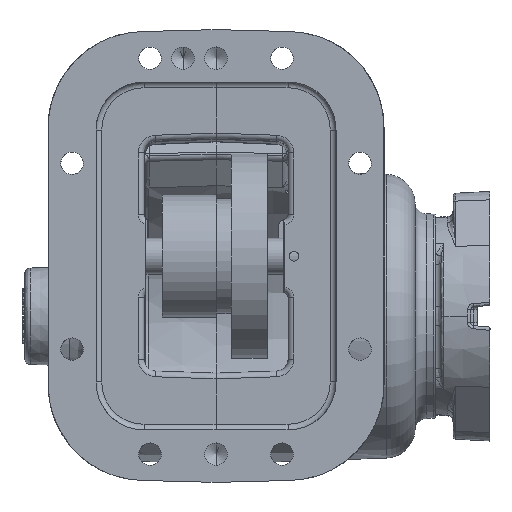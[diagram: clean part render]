
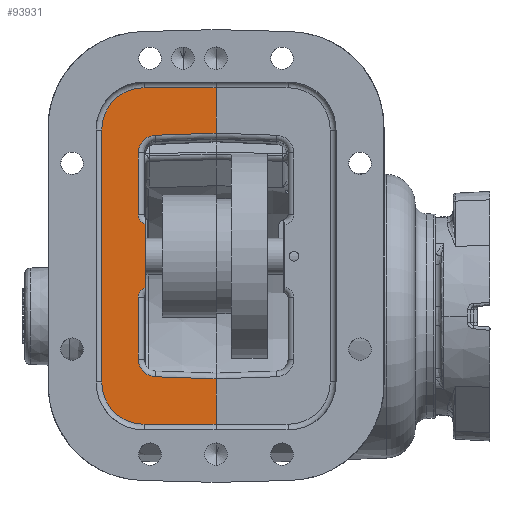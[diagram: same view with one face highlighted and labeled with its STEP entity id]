
A CAD part, front view. The second image highlights one B-rep face of the part: STEP entity #93931.
In plain terms, the highlighted planar face has unit normal (0, -1, 0).
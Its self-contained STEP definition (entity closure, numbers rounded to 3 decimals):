
#3724 = CARTESIAN_POINT ( 'NONE',  ( -99.29, -133.047, -95.578 ) ) ;
#3725 = PLANE ( 'NONE',  #58390 ) ;
#3756 = DIRECTION ( 'NONE',  ( 0., 1., 0. ) ) ;
#3757 = DIRECTION ( 'NONE',  ( 0., 0., -1. ) ) ;
#10368 = CARTESIAN_POINT ( 'NONE',  ( -10.39, -133.047, -43.129 ) ) ;
#10406 = CARTESIAN_POINT ( 'NONE',  ( -10.39, -133.047, -67.13 ) ) ;
#10518 = CARTESIAN_POINT ( 'NONE',  ( -10.39, -133.047, 110.924 ) ) ;
#10563 = CARTESIAN_POINT ( 'NONE',  ( -10.39, -133.047, 86.923 ) ) ;
#10722 = CARTESIAN_POINT ( 'NONE',  ( -48.49, -133.047, 110.924 ) ) ;
#10785 = CARTESIAN_POINT ( 'NONE',  ( -47.728, -133.047, 5.386 ) ) ;
#10789 = CARTESIAN_POINT ( 'NONE',  ( -42.468, -133.047, 85.803 ) ) ;
#10916 = CARTESIAN_POINT ( 'NONE',  ( -47.728, -133.047, 38.408 ) ) ;
#10951 = CARTESIAN_POINT ( 'NONE',  ( -51.538, -133.047, 44.059 ) ) ;
#10993 = CARTESIAN_POINT ( 'NONE',  ( -70.842, -133.047, -44.778 ) ) ;
#10997 = CARTESIAN_POINT ( 'NONE',  ( -51.538, -133.047, 76.41 ) ) ;
#11031 = CARTESIAN_POINT ( 'NONE',  ( -48.49, -133.047, -67.13 ) ) ;
#11062 = CARTESIAN_POINT ( 'NONE',  ( -42.468, -133.047, -42.009 ) ) ;
#11083 = CARTESIAN_POINT ( 'NONE',  ( -70.842, -133.047, 88.572 ) ) ;
#11112 = CARTESIAN_POINT ( 'NONE',  ( -51.538, -133.047, -0.265 ) ) ;
#23468 = AXIS2_PLACEMENT_3D ( 'NONE', #49919, #49920, #49921 ) ;
#23470 = AXIS2_PLACEMENT_3D ( 'NONE', #49923, #49924, #49925 ) ;
#23473 = AXIS2_PLACEMENT_3D ( 'NONE', #49931, #49932, #49933 ) ;
#23475 = AXIS2_PLACEMENT_3D ( 'NONE', #49936, #49937, #49938 ) ;
#23477 = AXIS2_PLACEMENT_3D ( 'NONE', #49941, #49942, #49943 ) ;
#23480 = AXIS2_PLACEMENT_3D ( 'NONE', #49948, #49949, #49950 ) ;
#30090 = FACE_OUTER_BOUND ( 'NONE', #37989, .T. ) ;
#37989 = EDGE_LOOP ( 'NONE', ( #90244, #90246, #90248, #90250, #90252, #90255, #90257, #90259, #90261, #90263, #90265, #90268, #90270, #90272, #90274, #90276 ) ) ;
#49755 = CARTESIAN_POINT ( 'NONE',  ( -10.39, -133.047, -95.578 ) ) ;
#49757 = DIRECTION ( 'NONE',  ( 0., 0., 1. ) ) ;
#49767 = CARTESIAN_POINT ( 'NONE',  ( -10.39, -133.047, -95.578 ) ) ;
#49768 = DIRECTION ( 'NONE',  ( 0., 0., 1. ) ) ;
#49890 = CARTESIAN_POINT ( 'NONE',  ( -47.728, -133.047, -95.578 ) ) ;
#49891 = DIRECTION ( 'NONE',  ( 0., 0., -1. ) ) ;
#49912 = CARTESIAN_POINT ( 'NONE',  ( -51.538, -133.047, 44.059 ) ) ;
#49913 = DIRECTION ( 'NONE',  ( 0., 0., -1. ) ) ;
#49917 = CARTESIAN_POINT ( 'NONE',  ( -42.468, -133.047, 85.803 ) ) ;
#49918 = DIRECTION ( 'NONE',  ( -0.999, 0., -0.035 ) ) ;
#49919 = CARTESIAN_POINT ( 'NONE',  ( -45.442, -133.047, 44.059 ) ) ;
#49920 = DIRECTION ( 'NONE',  ( 0., -1., 0. ) ) ;
#49921 = DIRECTION ( 'NONE',  ( 0., 0., -1. ) ) ;
#49922 = DIRECTION ( 'NONE',  ( 0., 0., 1. ) ) ;
#49923 = CARTESIAN_POINT ( 'NONE',  ( -42.14, -133.047, 76.41 ) ) ;
#49924 = DIRECTION ( 'NONE',  ( 0., -1., 0. ) ) ;
#49925 = DIRECTION ( 'NONE',  ( 0., 0., -1. ) ) ;
#49926 = CARTESIAN_POINT ( 'NONE',  ( -10.39, -133.047, 110.924 ) ) ;
#49927 = DIRECTION ( 'NONE',  ( 1., 0., 0. ) ) ;
#49928 = DIRECTION ( 'NONE',  ( -1., 0., 0. ) ) ;
#49929 = CARTESIAN_POINT ( 'NONE',  ( -48.49, -133.047, -67.13 ) ) ;
#49930 = CARTESIAN_POINT ( 'NONE',  ( -70.842, -133.047, 88.572 ) ) ;
#49931 = CARTESIAN_POINT ( 'NONE',  ( -48.49, -133.047, 88.572 ) ) ;
#49932 = DIRECTION ( 'NONE',  ( 0., 1., 0. ) ) ;
#49933 = DIRECTION ( 'NONE',  ( 0., 0., -1. ) ) ;
#49934 = CARTESIAN_POINT ( 'NONE',  ( -51.538, -133.047, -32.617 ) ) ;
#49935 = DIRECTION ( 'NONE',  ( 0., 0., -1. ) ) ;
#49936 = CARTESIAN_POINT ( 'NONE',  ( -48.49, -133.047, -44.778 ) ) ;
#49937 = DIRECTION ( 'NONE',  ( 0., 1., 0. ) ) ;
#49938 = DIRECTION ( 'NONE',  ( 0., 0., -1. ) ) ;
#49939 = CARTESIAN_POINT ( 'NONE',  ( -10.497, -133.047, -43.125 ) ) ;
#49940 = DIRECTION ( 'NONE',  ( 0.999, 0., -0.035 ) ) ;
#49941 = CARTESIAN_POINT ( 'NONE',  ( -42.14, -133.047, -32.617 ) ) ;
#49942 = DIRECTION ( 'NONE',  ( 0., -1., 0. ) ) ;
#49943 = DIRECTION ( 'NONE',  ( 0., 0., -1. ) ) ;
#49948 = CARTESIAN_POINT ( 'NONE',  ( -45.442, -133.047, -0.265 ) ) ;
#49949 = DIRECTION ( 'NONE',  ( 0., -1., 0. ) ) ;
#49950 = DIRECTION ( 'NONE',  ( 0., 0., -1. ) ) ;
#57401 = LINE ( 'NONE', #49755, #57404 ) ;
#57404 = VECTOR ( 'NONE', #49757, 1000. ) ;
#57411 = LINE ( 'NONE', #49767, #57414 ) ;
#57414 = VECTOR ( 'NONE', #49768, 1000. ) ;
#57415 = LINE ( 'NONE', #49930, #57438 ) ;
#57419 = LINE ( 'NONE', #49890, #57426 ) ;
#57425 = CIRCLE ( 'NONE', #23468, 6.096 ) ;
#57426 = VECTOR ( 'NONE', #49891, 1000. ) ;
#57427 = LINE ( 'NONE', #49912, #57430 ) ;
#57429 = CIRCLE ( 'NONE', #23470, 9.398 ) ;
#57430 = VECTOR ( 'NONE', #49913, 1000. ) ;
#57431 = LINE ( 'NONE', #49917, #57433 ) ;
#57432 = LINE ( 'NONE', #49926, #57435 ) ;
#57433 = VECTOR ( 'NONE', #49918, 1000. ) ;
#57434 = CIRCLE ( 'NONE', #23473, 22.352 ) ;
#57435 = VECTOR ( 'NONE', #49927, 1000. ) ;
#57436 = CIRCLE ( 'NONE', #23480, 6.096 ) ;
#57437 = CIRCLE ( 'NONE', #23475, 22.352 ) ;
#57438 = VECTOR ( 'NONE', #49922, 1000. ) ;
#57439 = LINE ( 'NONE', #49929, #57442 ) ;
#57440 = LINE ( 'NONE', #49939, #57444 ) ;
#57442 = VECTOR ( 'NONE', #49928, 1000. ) ;
#57443 = CIRCLE ( 'NONE', #23477, 9.398 ) ;
#57444 = VECTOR ( 'NONE', #49940, 1000. ) ;
#57446 = LINE ( 'NONE', #49934, #57450 ) ;
#57450 = VECTOR ( 'NONE', #49935, 1000. ) ;
#58390 = AXIS2_PLACEMENT_3D ( 'NONE', #3724, #3756, #3757 ) ;
#90244 = ORIENTED_EDGE ( 'NONE', *, *, #101090, .F. ) ;
#90246 = ORIENTED_EDGE ( 'NONE', *, *, #101091, .F. ) ;
#90248 = ORIENTED_EDGE ( 'NONE', *, *, #101092, .F. ) ;
#90250 = ORIENTED_EDGE ( 'NONE', *, *, #101093, .F. ) ;
#90252 = ORIENTED_EDGE ( 'NONE', *, *, #101094, .F. ) ;
#90255 = ORIENTED_EDGE ( 'NONE', *, *, #101073, .T. ) ;
#90257 = ORIENTED_EDGE ( 'NONE', *, *, #101095, .F. ) ;
#90259 = ORIENTED_EDGE ( 'NONE', *, *, #101096, .F. ) ;
#90261 = ORIENTED_EDGE ( 'NONE', *, *, #101097, .F. ) ;
#90263 = ORIENTED_EDGE ( 'NONE', *, *, #101098, .F. ) ;
#90265 = ORIENTED_EDGE ( 'NONE', *, *, #101099, .F. ) ;
#90268 = ORIENTED_EDGE ( 'NONE', *, *, #101067, .T. ) ;
#90270 = ORIENTED_EDGE ( 'NONE', *, *, #101100, .F. ) ;
#90272 = ORIENTED_EDGE ( 'NONE', *, *, #101101, .F. ) ;
#90274 = ORIENTED_EDGE ( 'NONE', *, *, #101102, .F. ) ;
#90276 = ORIENTED_EDGE ( 'NONE', *, *, #101103, .F. ) ;
#92531 = VERTEX_POINT ( 'NONE', #10368 ) ;
#92535 = VERTEX_POINT ( 'NONE', #10406 ) ;
#92554 = VERTEX_POINT ( 'NONE', #10518 ) ;
#92557 = VERTEX_POINT ( 'NONE', #10563 ) ;
#92584 = VERTEX_POINT ( 'NONE', #10722 ) ;
#92591 = VERTEX_POINT ( 'NONE', #10789 ) ;
#92595 = VERTEX_POINT ( 'NONE', #10785 ) ;
#92618 = VERTEX_POINT ( 'NONE', #10916 ) ;
#92622 = VERTEX_POINT ( 'NONE', #10951 ) ;
#92625 = VERTEX_POINT ( 'NONE', #10997 ) ;
#92629 = VERTEX_POINT ( 'NONE', #10993 ) ;
#92633 = VERTEX_POINT ( 'NONE', #11031 ) ;
#92637 = VERTEX_POINT ( 'NONE', #11062 ) ;
#92641 = VERTEX_POINT ( 'NONE', #11083 ) ;
#92644 = VERTEX_POINT ( 'NONE', #11112 ) ;
#93931 = ADVANCED_FACE ( 'NONE', ( #30090 ), #3725, .F. ) ;
#94228 = VERTEX_POINT ( 'NONE', #115039 ) ;
#101067 = EDGE_CURVE ( 'NONE', #92535, #92531, #57401, .T. ) ;
#101073 = EDGE_CURVE ( 'NONE', #92557, #92554, #57411, .T. ) ;
#101090 = EDGE_CURVE ( 'NONE', #92618, #92595, #57419, .T. ) ;
#101091 = EDGE_CURVE ( 'NONE', #92622, #92618, #57425, .T. ) ;
#101092 = EDGE_CURVE ( 'NONE', #92625, #92622, #57427, .T. ) ;
#101093 = EDGE_CURVE ( 'NONE', #92591, #92625, #57429, .T. ) ;
#101094 = EDGE_CURVE ( 'NONE', #92557, #92591, #57431, .T. ) ;
#101095 = EDGE_CURVE ( 'NONE', #92584, #92554, #57432, .T. ) ;
#101096 = EDGE_CURVE ( 'NONE', #92641, #92584, #57434, .T. ) ;
#101097 = EDGE_CURVE ( 'NONE', #92629, #92641, #57415, .T. ) ;
#101098 = EDGE_CURVE ( 'NONE', #92633, #92629, #57437, .T. ) ;
#101099 = EDGE_CURVE ( 'NONE', #92535, #92633, #57439, .T. ) ;
#101100 = EDGE_CURVE ( 'NONE', #92637, #92531, #57440, .T. ) ;
#101101 = EDGE_CURVE ( 'NONE', #94228, #92637, #57443, .T. ) ;
#101102 = EDGE_CURVE ( 'NONE', #92644, #94228, #57446, .T. ) ;
#101103 = EDGE_CURVE ( 'NONE', #92595, #92644, #57436, .T. ) ;
#115039 = CARTESIAN_POINT ( 'NONE',  ( -51.538, -133.047, -32.617 ) ) ;
